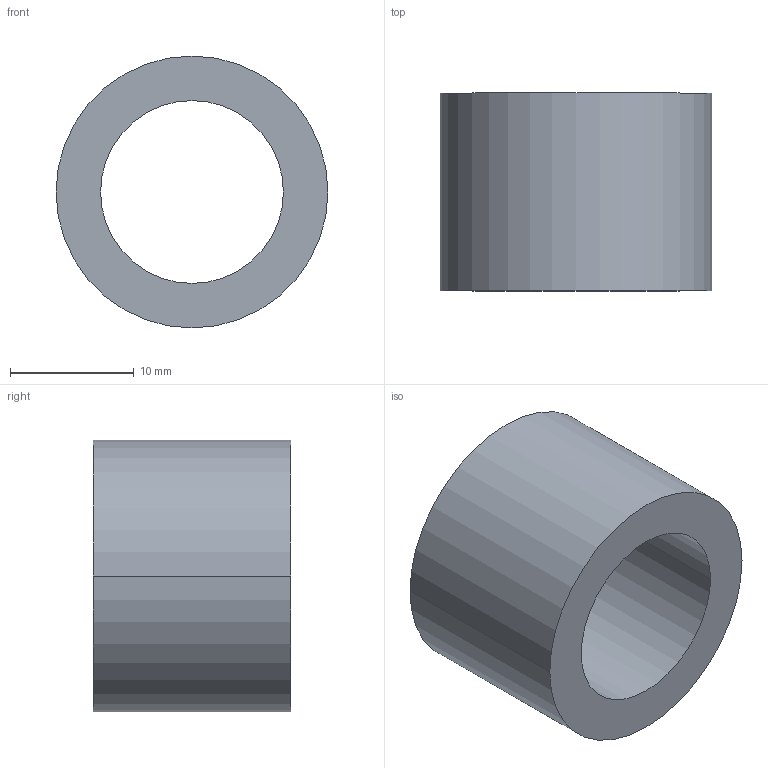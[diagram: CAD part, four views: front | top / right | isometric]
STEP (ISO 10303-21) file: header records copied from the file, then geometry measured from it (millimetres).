
FILE_DESCRIPTION (( 'STEP AP203' ), '1' );
FILE_NAME ('30800.WPP22F14.8.step', '2019-01-23T22:44:34', ( '' ), ( '' ), 'SwSTEP 2.0', 'SolidWorks 2017', '' );
FILE_SCHEMA (( 'CONFIG_CONTROL_DESIGN' ));
Length unit declared in the file: millimetre
Products named in the file (1): 30800.WPP22F14.8
Bounding box: 22 x 16 x 22 mm (x, y, z)
Volume: 3287.3 mm3; surface area: 2227.8 mm2
Topology: 1 solids, 1 shells, 8 faces, 16 edges, 10 vertices
Faces by surface type: cylinder 4, torus 2, plane 2
Entity records: 297 total; most frequent: DIRECTION 46, CARTESIAN_POINT 35, ORIENTED_EDGE 32, AXIS2_PLACEMENT_3D 21, EDGE_CURVE 16, CIRCLE 12, VERTEX_POINT 10, EDGE_LOOP 10
